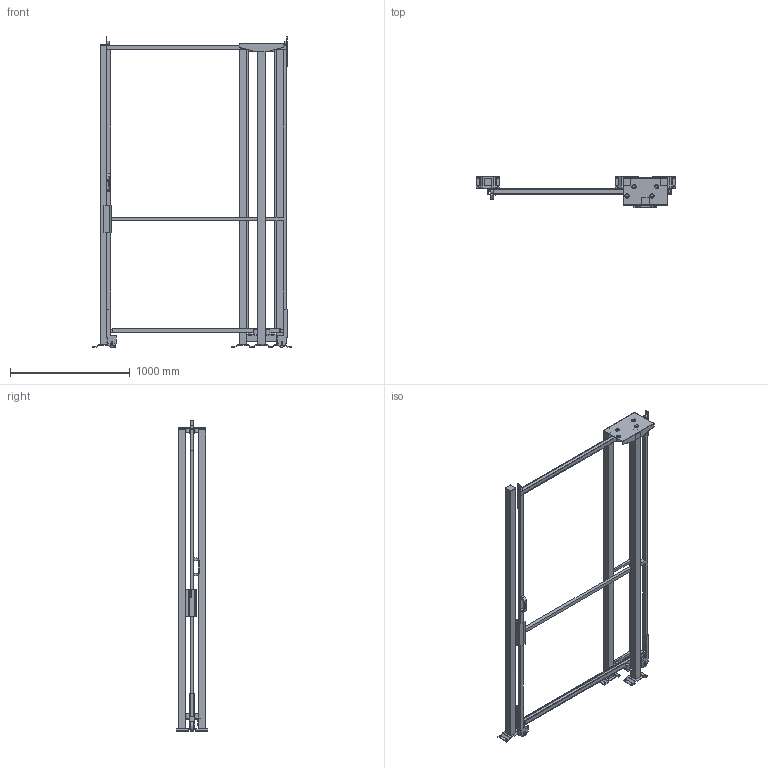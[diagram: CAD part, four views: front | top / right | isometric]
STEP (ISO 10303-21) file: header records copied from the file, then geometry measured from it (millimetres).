
FILE_DESCRIPTION(/* description */ (''),/* implementation_level */ '2;1');
FILE_NAME(/* name */ 'C:\SafeGuarding\ELABORATI\KLADKA_2025-03-20-09-42-01.stp',/* time_stamp */ '2025-03-20T09:42:04+01:00',/* author */ ('admin'),/* organization */ (''),/* preprocessor_version */ 'ST-DEVELOPER v18.1',/* originating_system */ 'AutoCAD Mechanical',/* authorisation */ '');
FILE_SCHEMA (('AUTOMOTIVE_DESIGN { 1 0 10303 214 3 1 1 }'));
Length unit declared in the file: millimetre
Products named in the file (4): Product; VFPA.REPE30.15002400; VFPA.REPE2002502400; P_VFMA.V360SDU.2520
Assembly tree (6 placements, depth 2):
  Product
    VFPA.REPE30.15002400
    VFPA.REPE2002502400
    P_VFMA.V360SDU.2520  x4
Bounding box: 1661.97 x 264.14 x 2590.02 mm (x, y, z)
Volume: 49994054.2 mm3; surface area: 6312603.9 mm2
Topology: 47 solids, 58 shells, 487 faces, 1537 edges, 1457 vertices
Faces by surface type: plane 435, cylinder 50, sphere 2
Full cylindrical faces by diameter (mm): 9 x4, 11 x16, 13 x4, 30 x6, 36 x8, 80 x2
Entity records: 13951 total; most frequent: CARTESIAN_POINT 2941, DIRECTION 2121, ORIENTED_EDGE 1962, EDGE_CURVE 1030, LINE 1019, VECTOR 1019, VERTEX_POINT 726, AXIS2_PLACEMENT_3D 551
